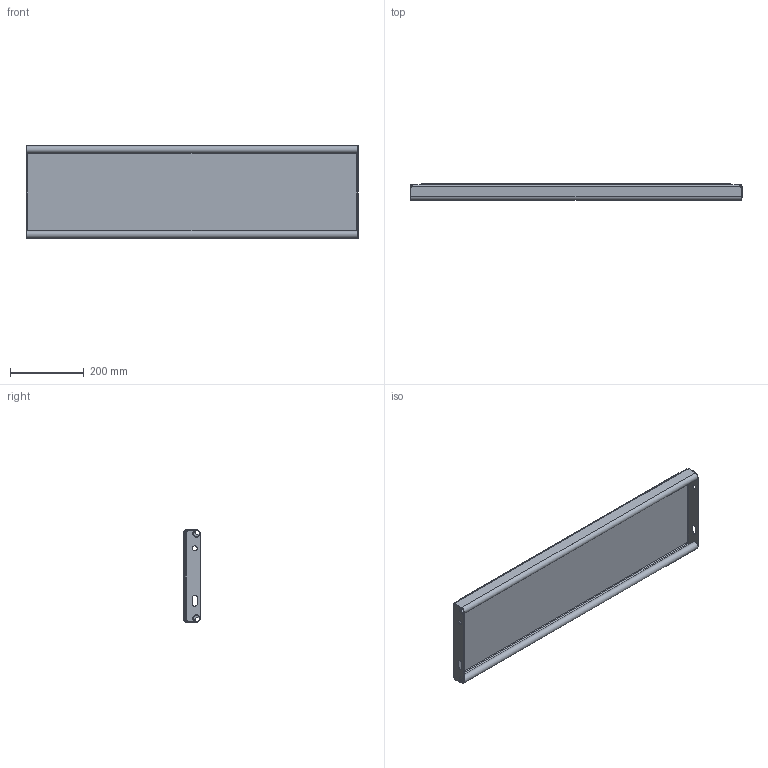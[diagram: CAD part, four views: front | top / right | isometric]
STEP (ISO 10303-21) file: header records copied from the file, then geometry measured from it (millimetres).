
FILE_DESCRIPTION (( 'STEP AP214' ), '1' );
FILE_NAME ('OPTIMO-Tread-Achil-O2-900x250x45x2-st240-F100350100_plain.STEP', '2021-03-16T14:00:24', ( '' ), ( '' ), 'SwSTEP 2.0', 'SolidWorks 2021', '' );
FILE_SCHEMA (( 'AUTOMOTIVE_DESIGN' ));
Length unit declared in the file: millimetre
Products named in the file (1): OPTIMO-Tread-Achil-O2-900x250x45x2-st240-F100350100_plain
Bounding box: 900 x 45 x 250 mm (x, y, z)
Volume: 1372321.8 mm3; surface area: 775227.6 mm2
Topology: 1 solids, 1 shells, 248 faces, 640 edges, 412 vertices
Faces by surface type: plane 173, bspline 39, cylinder 36
Entity records: 9924 total; most frequent: CARTESIAN_POINT 4092, ORIENTED_EDGE 1280, DIRECTION 1022, EDGE_CURVE 640, VECTOR 490, LINE 490, VERTEX_POINT 412, EDGE_LOOP 274
